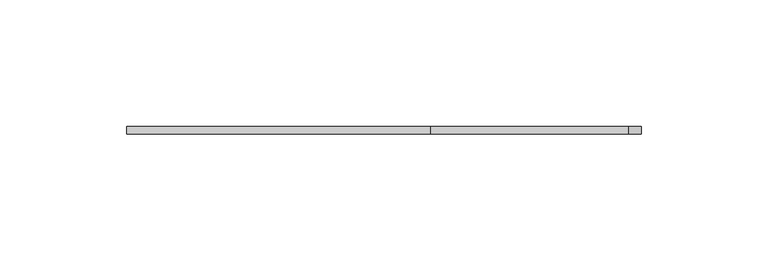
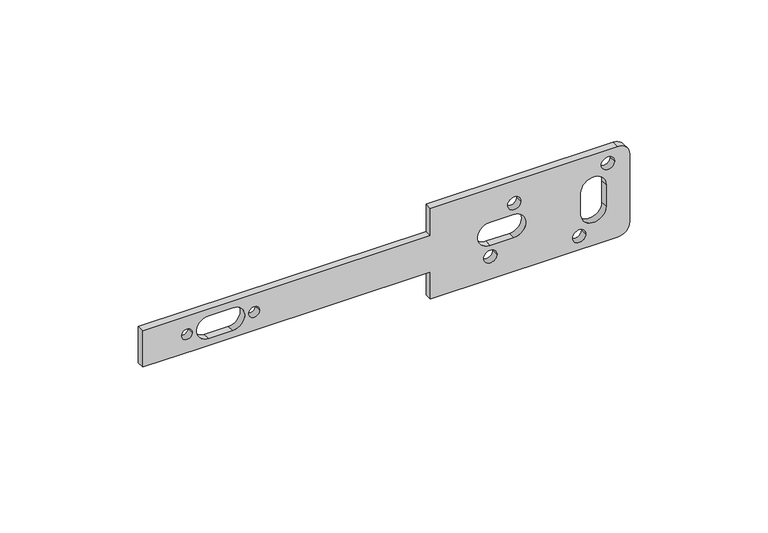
"""IFC4 building model written with IfcOpenShell, lengths in millimetres: proxy geometry, REHAU_RAUTITAN_Bracket UA : REHAU_RAUTITAN_Bracket UA."""

from ifc_helpers import new_model, si_unit, point, frame, frame_2d, origin, place, context, project, spatial, polyline, circle_curve, trimmed, segment, composite_curve, outline, extrude, source, transform, mapped, element, save


def generic_models_0c010482(model_context):
    return source(origin(), model_context, "Body", "SweptSolid", [
        extrude(outline(composite_curve([segment(polyline([(8.0, -100.1953836), (-8.0, -100.1953836), (-8.0, -77.1090925), (-8.0, -58.2816747), (-8.0, 19.8046164), (-20.0, 19.8046164), (-20.0, 97.8046164)]), True, "CONTINUOUS"), segment(trimmed(circle_curve(frame_2d((-15.0, 97.8046164)), 5.0), [point((-20.0, 97.8046164))], [point((-15.0, 102.8046164))], False, "CARTESIAN"), True, "CONTINUOUS"), segment(polyline([(-15.0, 102.8046164), (15.0, 102.8046164)]), True, "CONTINUOUS"), segment(trimmed(circle_curve(frame_2d((15.0, 97.8046164)), 5.0), [point((15.0, 102.8046164))], [point((20.0, 97.8046164))], False, "CARTESIAN"), True, "CONTINUOUS"), segment(polyline([(20.0, 97.8046164), (20.0, 19.8046164), (8.0, 19.8046164), (8.0, -100.1953836)]), True, "CONTINUOUS")], self_intersect=False), holes=[composite_curve([segment(trimmed(circle_curve(frame_2d((14.0, 93.8046164)), 2.75), [point((14.0, 91.0546164))], [point((14.0, 96.5546164))], True, "CARTESIAN"), True, "CONTINUOUS"), segment(trimmed(circle_curve(frame_2d((14.0, 93.8046164)), 2.75), [point((14.0, 96.5546164))], [point((14.0, 91.0546164))], True, "CARTESIAN"), True, "CONTINUOUS")], self_intersect=False), composite_curve([segment(polyline([(-4.75, 82.5546164), (4.75, 82.5546164)]), True, "CONTINUOUS"), segment(trimmed(circle_curve(frame_2d((4.75, 87.8046164)), 5.25), [point((4.75, 82.5546164))], [point((4.75, 93.0546164))], True, "CARTESIAN"), True, "CONTINUOUS"), segment(polyline([(4.75, 93.0546164), (-4.75, 93.0546164)]), True, "CONTINUOUS"), segment(trimmed(circle_curve(frame_2d((-4.75, 87.8046164)), 5.25), [point((-4.75, 93.0546164))], [point((-4.75, 82.5546164))], True, "CARTESIAN"), True, "CONTINUOUS")], self_intersect=False), composite_curve([segment(trimmed(circle_curve(frame_2d((-14.0, 81.8046164)), 2.75), [point((-14.0, 79.0546164))], [point((-14.0, 84.5546164))], True, "CARTESIAN"), True, "CONTINUOUS"), segment(trimmed(circle_curve(frame_2d((-14.0, 81.8046164)), 2.75), [point((-14.0, 84.5546164))], [point((-14.0, 79.0546164))], True, "CARTESIAN"), True, "CONTINUOUS")], self_intersect=False), composite_curve([segment(trimmed(circle_curve(frame_2d((-10.0, 44.8046164)), 2.75), [point((-10.0, 42.0546164))], [point((-10.0, 47.5546164))], True, "CARTESIAN"), True, "CONTINUOUS"), segment(trimmed(circle_curve(frame_2d((-10.0, 44.8046164)), 2.75), [point((-10.0, 47.5546164))], [point((-10.0, 42.0546164))], True, "CARTESIAN"), True, "CONTINUOUS")], self_intersect=False), composite_curve([segment(trimmed(circle_curve(frame_2d((0.0, 44.5546164)), 5.0), [point((-5.0, 44.5546164))], [point((5.0, 44.5546164))], True, "CARTESIAN"), True, "CONTINUOUS"), segment(polyline([(5.0, 44.5546164), (5.0, 54.5546164)]), True, "CONTINUOUS"), segment(trimmed(circle_curve(frame_2d((0.0, 54.5546164)), 5.0), [point((5.0, 54.5546164))], [point((-5.0, 54.5546164))], True, "CARTESIAN"), True, "CONTINUOUS"), segment(polyline([(-5.0, 54.5546164), (-5.0, 44.5546164)]), True, "CONTINUOUS")], self_intersect=False), composite_curve([segment(polyline([(5.0, -72.6953836), (5.0, -62.6953836)]), True, "CONTINUOUS"), segment(trimmed(circle_curve(frame_2d((0.0, -62.6953836)), 5.0), [point((5.0, -62.6953836))], [point((-5.0, -62.6953836))], True, "CARTESIAN"), True, "CONTINUOUS"), segment(polyline([(-5.0, -62.6953836), (-5.0, -72.6953836)]), True, "CONTINUOUS"), segment(trimmed(circle_curve(frame_2d((0.0, -72.6953836)), 5.0), [point((-5.0, -72.6953836))], [point((5.0, -72.6953836))], True, "CARTESIAN"), True, "CONTINUOUS")], self_intersect=False), composite_curve([segment(trimmed(circle_curve(frame_2d((0.0, -81.6953836)), 2.25), [point((0.0, -83.9453836))], [point((0.0, -79.4453836))], True, "CARTESIAN"), True, "CONTINUOUS"), segment(trimmed(circle_curve(frame_2d((0.0, -81.6953836)), 2.25), [point((0.0, -79.4453836))], [point((0.0, -83.9453836))], True, "CARTESIAN"), True, "CONTINUOUS")], self_intersect=False), composite_curve([segment(trimmed(circle_curve(frame_2d((0.0, -53.6953836)), 2.25), [point((0.0, -55.9453836))], [point((0.0, -51.4453836))], True, "CARTESIAN"), True, "CONTINUOUS"), segment(trimmed(circle_curve(frame_2d((0.0, -53.6953836)), 2.25), [point((0.0, -51.4453836))], [point((0.0, -55.9453836))], True, "CARTESIAN"), True, "CONTINUOUS")], self_intersect=False), composite_curve([segment(trimmed(circle_curve(frame_2d((10.0, 54.8046164)), 2.75), [point((10.0, 52.0546164))], [point((10.0, 57.5546164))], True, "CARTESIAN"), True, "CONTINUOUS"), segment(trimmed(circle_curve(frame_2d((10.0, 54.8046164)), 2.75), [point((10.0, 57.5546164))], [point((10.0, 52.0546164))], True, "CARTESIAN"), True, "CONTINUOUS")], self_intersect=False)]), frame((0.0, -1.5, 0.0), z_axis=(0.0, 1.0, 0.0), x_axis=(0.0, 0.0, 1.0)), (0.0, 0.0, 1.0), 3.0),
    ])


if __name__ == "__main__":
    model = new_model("IFC4")
    model_context = context("Model", 3, world=origin())
    ifc_project = project(units=[si_unit("LENGTHUNIT", "METRE", prefix="MILLI")], contexts=[model_context])
    site = spatial("IfcSite", under=ifc_project)
    building = spatial("IfcBuilding", under=site)
    placement = place(None, origin())
    generic_models_shape = generic_models_0c010482(model_context)
    element("IfcBuildingElementProxy", 1, Name="REHAU_RAUTITAN_Bracket UA : REHAU_RAUTITAN_Bracket UA", ObjectType="REHAU_RAUTITAN_Bracket UA : REHAU_RAUTITAN_Bracket UA", at=placement, inside=building, context=model_context, shape_type="MappedRepresentation", body=[
        mapped(generic_models_shape, transform((0.0, 0.0, 0.0), x_axis=(1.0, 0.0, 0.0), y_axis=(0.0, 1.0, 0.0), z_axis=(0.0, 0.0, 1.0))),
    ])
    save(model, "model.ifc")
